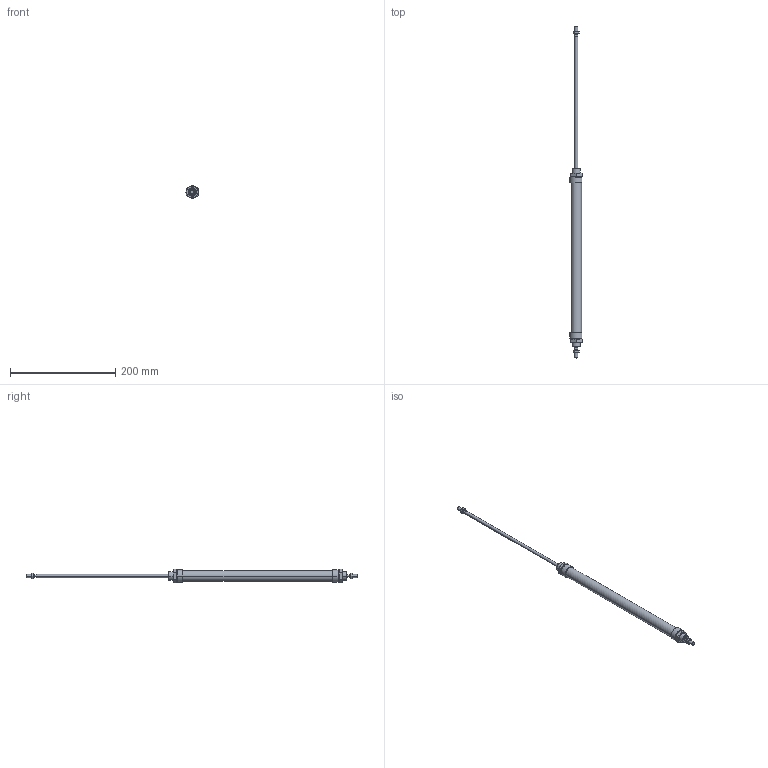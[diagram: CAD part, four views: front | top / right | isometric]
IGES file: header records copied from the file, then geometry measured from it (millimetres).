
Global section: file name: No Iges File Name specified; native system: AutoDesk Inventor R6.0; preprocessor: AutoDesk Inventor Iges Exporter R6.0; author: No Author specified; organization: No Organization specified; date: 20030403.072228; units: millimetre
Bounding box: 23 x 632 x 25.4 mm (x, y, z)
Volume: 117059.8 mm3; surface area: 43676.5 mm2
Topology: 6 solids, 6 shells, 180 faces, 388 edges, 228 vertices
Faces by surface type: cone 68, plane 56, bspline 30, cylinder 20, revolution 6
